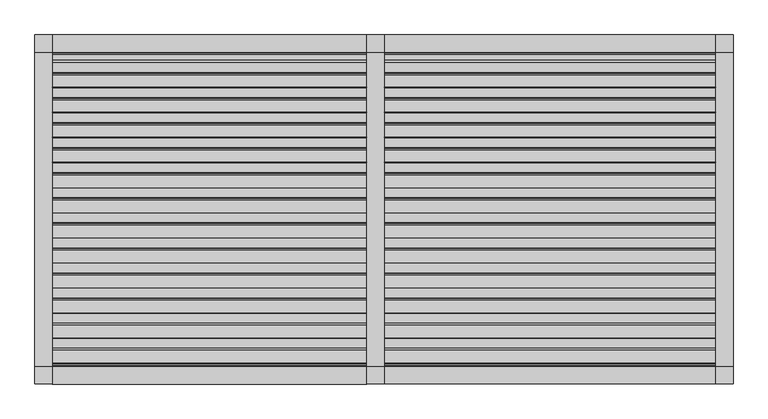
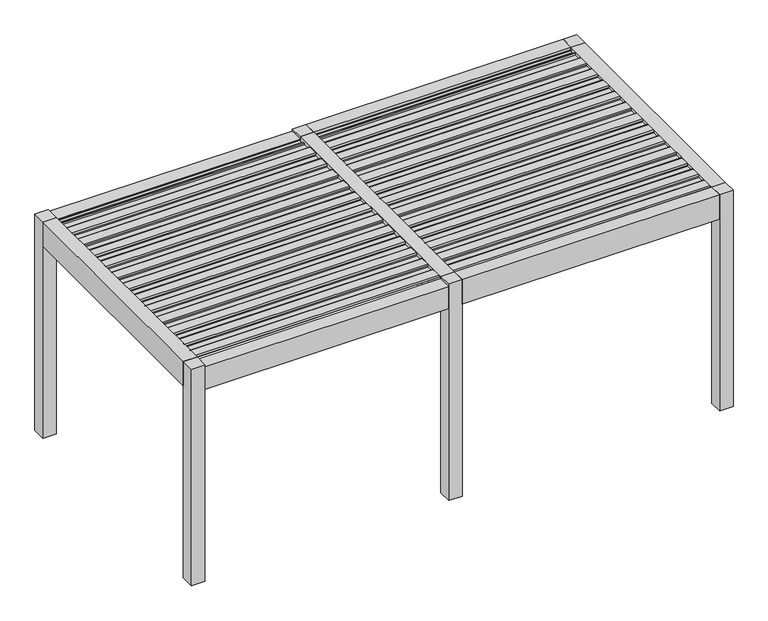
"""IFC4 building model written with IfcOpenShell, lengths in millimetres: proxy geometry, Renson_Amani_Patio_Cover : Renson_Amani_Patio_Cover."""

from ifc_helpers import new_model, si_unit, point, frame, frame_2d, origin, origin_with_axes, place, context, project, spatial, polyline, circle_curve, trimmed, segment, composite_curve, outline, extrude, source, transform, mapped, element, save


def generic_models_49bb953a(model_context):
    return source(origin(), model_context, "Body", "SweptSolid", [
        extrude(outline(composite_curve([segment(polyline([(-1073.7289238, 2483.35), (-1076.1490335, 2511.01198), (-1104.984284, 2512.3970364), (-1101.5469529, 2531.8911096), (-991.549838, 2526.6075693)]), True, "CONTINUOUS"), segment(trimmed(circle_curve(frame_2d((-992.26951, 2511.6248435)), 15.0), [point((-991.549838, 2526.6075693))], [point((-977.4973937, 2514.2295662))], False, "CARTESIAN"), True, "CONTINUOUS"), segment(polyline([(-977.4973937, 2514.2295662), (-974.1067023, 2495.0), (-886.3709263, 2495.0), (-883.3594689, 2512.0788237), (-868.0824984, 2511.3450182), (-865.6332517, 2483.35), (-1073.7289238, 2483.35)]), True, "CONTINUOUS")], self_intersect=False)), frame((1500.0, 0.0, 0.0), z_axis=(1.0, 0.0, 0.0), x_axis=(0.0, 1.0, 0.0)), (0.0, 0.0, 1.0), 2850.0),
        extrude(outline(composite_curve([segment(polyline([(-858.7132078, 2483.35), (-861.1333174, 2511.01198), (-889.9685679, 2512.3970364), (-886.5312368, 2531.8911096), (-776.534122, 2526.6075693)]), True, "CONTINUOUS"), segment(trimmed(circle_curve(frame_2d((-777.2537939, 2511.6248435)), 15.0), [point((-776.534122, 2526.6075693))], [point((-762.4816776, 2514.2295662))], False, "CARTESIAN"), True, "CONTINUOUS"), segment(polyline([(-762.4816776, 2514.2295662), (-759.0909863, 2495.0), (-671.3552102, 2495.0), (-668.3437528, 2512.0788237), (-653.0667824, 2511.3450182), (-650.6175356, 2483.35), (-858.7132078, 2483.35)]), True, "CONTINUOUS")], self_intersect=False)), frame((1500.0, 0.0, 0.0), z_axis=(1.0, 0.0, 0.0), x_axis=(0.0, 1.0, 0.0)), (0.0, 0.0, 1.0), 2850.0),
        extrude(outline(composite_curve([segment(polyline([(-643.6974917, 2483.35), (-646.1176014, 2511.01198), (-674.9528519, 2512.3970364), (-671.5155208, 2531.8911096), (-561.5184059, 2526.6075693)]), True, "CONTINUOUS"), segment(trimmed(circle_curve(frame_2d((-562.2380779, 2511.6248435)), 15.0), [point((-561.5184059, 2526.6075693))], [point((-547.4659616, 2514.2295662))], False, "CARTESIAN"), True, "CONTINUOUS"), segment(polyline([(-547.4659616, 2514.2295662), (-544.0752702, 2495.0), (-456.3394942, 2495.0), (-453.3280368, 2512.0788237), (-438.0510663, 2511.3450182), (-435.6018196, 2483.35), (-643.6974917, 2483.35)]), True, "CONTINUOUS")], self_intersect=False)), frame((1500.0, 0.0, 0.0), z_axis=(1.0, 0.0, 0.0), x_axis=(0.0, 1.0, 0.0)), (0.0, 0.0, 1.0), 2850.0),
        extrude(outline(composite_curve([segment(polyline([(-428.6817757, 2483.35), (-431.1018854, 2511.01198), (-459.9371358, 2512.3970364), (-456.4998047, 2531.8911096), (-346.5026899, 2526.6075693)]), True, "CONTINUOUS"), segment(trimmed(circle_curve(frame_2d((-347.2223618, 2511.6248435)), 15.0), [point((-346.5026899, 2526.6075693))], [point((-332.4502455, 2514.2295662))], False, "CARTESIAN"), True, "CONTINUOUS"), segment(polyline([(-332.4502455, 2514.2295662), (-329.0595542, 2495.0), (-241.3237782, 2495.0), (-238.3123207, 2512.0788237), (-223.0353503, 2511.3450182), (-220.5861035, 2483.35), (-428.6817757, 2483.35)]), True, "CONTINUOUS")], self_intersect=False)), frame((1500.0, 0.0, 0.0), z_axis=(1.0, 0.0, 0.0), x_axis=(0.0, 1.0, 0.0)), (0.0, 0.0, 1.0), 2850.0),
        extrude(outline(composite_curve([segment(polyline([(-213.6660597, 2483.35), (-216.0861693, 2511.01198), (-244.9214198, 2512.3970364), (-241.4840887, 2531.8911096), (-131.4869738, 2526.6075693)]), True, "CONTINUOUS"), segment(trimmed(circle_curve(frame_2d((-132.2066458, 2511.6248435)), 15.0), [point((-131.4869738, 2526.6075693))], [point((-117.4345295, 2514.2295662))], False, "CARTESIAN"), True, "CONTINUOUS"), segment(polyline([(-117.4345295, 2514.2295662), (-114.0438381, 2495.0), (-26.3080621, 2495.0), (-23.2966047, 2512.0788237), (-8.0196342, 2511.3450182), (-5.5703875, 2483.35), (-213.6660597, 2483.35)]), True, "CONTINUOUS")], self_intersect=False)), frame((1500.0, 0.0, 0.0), z_axis=(1.0, 0.0, 0.0), x_axis=(0.0, 1.0, 0.0)), (0.0, 0.0, 1.0), 2850.0),
        extrude(outline(composite_curve([segment(polyline([(1.3496564, 2483.35), (-1.0704533, 2511.01198), (-29.9057037, 2512.3970364), (-26.4683726, 2531.8911096), (83.5287422, 2526.6075693)]), True, "CONTINUOUS"), segment(trimmed(circle_curve(frame_2d((82.8090703, 2511.6248435)), 15.0), [point((83.5287422, 2526.6075693))], [point((97.5811866, 2514.2295662))], False, "CARTESIAN"), True, "CONTINUOUS"), segment(polyline([(97.5811866, 2514.2295662), (100.9718779, 2495.0), (188.7076539, 2495.0), (191.7191114, 2512.0788237), (206.9960818, 2511.3450182), (209.4453286, 2483.35), (1.3496564, 2483.35)]), True, "CONTINUOUS")], self_intersect=False)), frame((1500.0, 0.0, 0.0), z_axis=(1.0, 0.0, 0.0), x_axis=(0.0, 1.0, 0.0)), (0.0, 0.0, 1.0), 2850.0),
        extrude(outline(composite_curve([segment(polyline([(216.3653724, 2483.35), (213.9452628, 2511.01198), (185.1100123, 2512.3970364), (188.5473434, 2531.8911096), (298.5444582, 2526.6075693)]), True, "CONTINUOUS"), segment(trimmed(circle_curve(frame_2d((297.8247863, 2511.6248435)), 15.0), [point((298.5444582, 2526.6075693))], [point((312.5969026, 2514.2295662))], False, "CARTESIAN"), True, "CONTINUOUS"), segment(polyline([(312.5969026, 2514.2295662), (315.987594, 2495.0), (403.72337, 2495.0), (406.7348274, 2512.0788237), (422.0117979, 2511.3450182), (424.4610446, 2483.35), (216.3653724, 2483.35)]), True, "CONTINUOUS")], self_intersect=False)), frame((1500.0, 0.0, 0.0), z_axis=(1.0, 0.0, 0.0), x_axis=(0.0, 1.0, 0.0)), (0.0, 0.0, 1.0), 2850.0),
        extrude(outline(composite_curve([segment(polyline([(431.3810885, 2483.35), (428.9609788, 2511.01198), (400.1257284, 2512.3970364), (403.5630594, 2531.8911096), (513.5601743, 2526.6075693)]), True, "CONTINUOUS"), segment(trimmed(circle_curve(frame_2d((512.8405024, 2511.6248435)), 15.0), [point((513.5601743, 2526.6075693))], [point((527.6126187, 2514.2295662))], False, "CARTESIAN"), True, "CONTINUOUS"), segment(polyline([(527.6126187, 2514.2295662), (531.00331, 2495.0), (618.739086, 2495.0), (621.7505434, 2512.0788237), (637.0275139, 2511.3450182), (639.4767606, 2483.35), (431.3810885, 2483.35)]), True, "CONTINUOUS")], self_intersect=False)), frame((1500.0, 0.0, 0.0), z_axis=(1.0, 0.0, 0.0), x_axis=(0.0, 1.0, 0.0)), (0.0, 0.0, 1.0), 2850.0),
        extrude(outline(composite_curve([segment(polyline([(646.3968045, 2483.35), (643.9766949, 2511.01198), (615.1414444, 2512.3970364), (618.5787755, 2531.8911096), (728.5758903, 2526.6075693)]), True, "CONTINUOUS"), segment(trimmed(circle_curve(frame_2d((727.8562184, 2511.6248435)), 15.0), [point((728.5758903, 2526.6075693))], [point((742.6283347, 2514.2295662))], False, "CARTESIAN"), True, "CONTINUOUS"), segment(polyline([(742.6283347, 2514.2295662), (746.019026, 2495.0), (833.7548021, 2495.0), (836.7662595, 2512.0788237), (852.04323, 2511.3450182), (854.4924767, 2483.35), (646.3968045, 2483.35)]), True, "CONTINUOUS")], self_intersect=False)), frame((1500.0, 0.0, 0.0), z_axis=(1.0, 0.0, 0.0), x_axis=(0.0, 1.0, 0.0)), (0.0, 0.0, 1.0), 2850.0),
        extrude(outline(composite_curve([segment(polyline([(861.4125206, 2483.35), (858.9924109, 2511.01198), (830.1571605, 2512.3970364), (833.5944915, 2531.8911096), (943.5916064, 2526.6075693)]), True, "CONTINUOUS"), segment(trimmed(circle_curve(frame_2d((942.8719345, 2511.6248435)), 15.0), [point((943.5916064, 2526.6075693))], [point((957.6440508, 2514.2295662))], False, "CARTESIAN"), True, "CONTINUOUS"), segment(polyline([(957.6440508, 2514.2295662), (961.0347421, 2495.0), (1048.7705181, 2495.0), (1051.7819755, 2512.0788237), (1067.058946, 2511.3450182), (1069.5081927, 2483.35), (861.4125206, 2483.35)]), True, "CONTINUOUS")], self_intersect=False)), frame((1500.0, 0.0, 0.0), z_axis=(1.0, 0.0, 0.0), x_axis=(0.0, 1.0, 0.0)), (0.0, 0.0, 1.0), 2850.0),
        extrude(outline(composite_curve([segment(polyline([(-1288.7446399, 2483.35), (-1291.1647495, 2511.01198), (-1320.0, 2512.3970364), (-1316.5626689, 2531.8911096), (-1206.5655541, 2526.6075693)]), True, "CONTINUOUS"), segment(trimmed(circle_curve(frame_2d((-1207.285226, 2511.6248435)), 15.0), [point((-1206.5655541, 2526.6075693))], [point((-1192.5131097, 2514.2295662))], False, "CARTESIAN"), True, "CONTINUOUS"), segment(polyline([(-1192.5131097, 2514.2295662), (-1189.1224184, 2495.0), (-1101.3866423, 2495.0), (-1098.3751849, 2512.0788237), (-1083.0982144, 2511.3450182), (-1080.6489677, 2483.35), (-1288.7446399, 2483.35)]), True, "CONTINUOUS")], self_intersect=False)), frame((1500.0, 0.0, 0.0), z_axis=(1.0, 0.0, 0.0), x_axis=(0.0, 1.0, 0.0)), (0.0, 0.0, 1.0), 2850.0),
        extrude(outline(composite_curve([segment(polyline([(1076.4282366, 2483.35), (1074.008127, 2511.01198), (1045.1728765, 2512.3970364), (1048.6102076, 2531.8911096), (1158.6073224, 2526.6075693)]), True, "CONTINUOUS"), segment(trimmed(circle_curve(frame_2d((1157.8876505, 2511.6248435)), 15.0), [point((1158.6073224, 2526.6075693))], [point((1172.6597668, 2514.2295662))], False, "CARTESIAN"), True, "CONTINUOUS"), segment(polyline([(1172.6597668, 2514.2295662), (1176.0504581, 2495.0), (1263.7862342, 2495.0), (1266.7976916, 2512.0788237), (1282.0746621, 2511.3450182), (1284.5239088, 2483.35), (1076.4282366, 2483.35)]), True, "CONTINUOUS")], self_intersect=False)), frame((1500.0, 0.0, 0.0), z_axis=(1.0, 0.0, 0.0), x_axis=(0.0, 1.0, 0.0)), (0.0, 0.0, 1.0), 2850.0),
        extrude(outline(composite_curve([segment(polyline([(-1073.7289238, 2483.35), (-1076.1490335, 2511.01198), (-1104.984284, 2512.3970364), (-1101.5469529, 2531.8911096), (-991.549838, 2526.6075693)]), True, "CONTINUOUS"), segment(trimmed(circle_curve(frame_2d((-992.26951, 2511.6248435)), 15.0), [point((-991.549838, 2526.6075693))], [point((-977.4973937, 2514.2295662))], False, "CARTESIAN"), True, "CONTINUOUS"), segment(polyline([(-977.4973937, 2514.2295662), (-974.1067023, 2495.0), (-886.3709263, 2495.0), (-883.3594689, 2512.0788237), (-868.0824984, 2511.3450182), (-865.6332517, 2483.35), (-1073.7289238, 2483.35)]), True, "CONTINUOUS")], self_intersect=False)), frame((-1350.0, 0.0, 0.0), z_axis=(1.0, 0.0, 0.0), x_axis=(0.0, 1.0, 0.0)), (0.0, 0.0, 1.0), 2700.0),
        extrude(outline(composite_curve([segment(polyline([(-858.7132078, 2483.35), (-861.1333174, 2511.01198), (-889.9685679, 2512.3970364), (-886.5312368, 2531.8911096), (-776.534122, 2526.6075693)]), True, "CONTINUOUS"), segment(trimmed(circle_curve(frame_2d((-777.2537939, 2511.6248435)), 15.0), [point((-776.534122, 2526.6075693))], [point((-762.4816776, 2514.2295662))], False, "CARTESIAN"), True, "CONTINUOUS"), segment(polyline([(-762.4816776, 2514.2295662), (-759.0909863, 2495.0), (-671.3552102, 2495.0), (-668.3437528, 2512.0788237), (-653.0667824, 2511.3450182), (-650.6175356, 2483.35), (-858.7132078, 2483.35)]), True, "CONTINUOUS")], self_intersect=False)), frame((-1350.0, 0.0, 0.0), z_axis=(1.0, 0.0, 0.0), x_axis=(0.0, 1.0, 0.0)), (0.0, 0.0, 1.0), 2700.0),
        extrude(outline(composite_curve([segment(polyline([(-643.6974917, 2483.35), (-646.1176014, 2511.01198), (-674.9528519, 2512.3970364), (-671.5155208, 2531.8911096), (-561.5184059, 2526.6075693)]), True, "CONTINUOUS"), segment(trimmed(circle_curve(frame_2d((-562.2380779, 2511.6248435)), 15.0), [point((-561.5184059, 2526.6075693))], [point((-547.4659616, 2514.2295662))], False, "CARTESIAN"), True, "CONTINUOUS"), segment(polyline([(-547.4659616, 2514.2295662), (-544.0752702, 2495.0), (-456.3394942, 2495.0), (-453.3280368, 2512.0788237), (-438.0510663, 2511.3450182), (-435.6018196, 2483.35), (-643.6974917, 2483.35)]), True, "CONTINUOUS")], self_intersect=False)), frame((-1350.0, 0.0, 0.0), z_axis=(1.0, 0.0, 0.0), x_axis=(0.0, 1.0, 0.0)), (0.0, 0.0, 1.0), 2700.0),
        extrude(outline(composite_curve([segment(polyline([(-428.6817757, 2483.35), (-431.1018854, 2511.01198), (-459.9371358, 2512.3970364), (-456.4998047, 2531.8911096), (-346.5026899, 2526.6075693)]), True, "CONTINUOUS"), segment(trimmed(circle_curve(frame_2d((-347.2223618, 2511.6248435)), 15.0), [point((-346.5026899, 2526.6075693))], [point((-332.4502455, 2514.2295662))], False, "CARTESIAN"), True, "CONTINUOUS"), segment(polyline([(-332.4502455, 2514.2295662), (-329.0595542, 2495.0), (-241.3237782, 2495.0), (-238.3123207, 2512.0788237), (-223.0353503, 2511.3450182), (-220.5861035, 2483.35), (-428.6817757, 2483.35)]), True, "CONTINUOUS")], self_intersect=False)), frame((-1350.0, 0.0, 0.0), z_axis=(1.0, 0.0, 0.0), x_axis=(0.0, 1.0, 0.0)), (0.0, 0.0, 1.0), 2700.0),
        extrude(outline(composite_curve([segment(polyline([(-213.6660597, 2483.35), (-216.0861693, 2511.01198), (-244.9214198, 2512.3970364), (-241.4840887, 2531.8911096), (-131.4869738, 2526.6075693)]), True, "CONTINUOUS"), segment(trimmed(circle_curve(frame_2d((-132.2066458, 2511.6248435)), 15.0), [point((-131.4869738, 2526.6075693))], [point((-117.4345295, 2514.2295662))], False, "CARTESIAN"), True, "CONTINUOUS"), segment(polyline([(-117.4345295, 2514.2295662), (-114.0438381, 2495.0), (-26.3080621, 2495.0), (-23.2966047, 2512.0788237), (-8.0196342, 2511.3450182), (-5.5703875, 2483.35), (-213.6660597, 2483.35)]), True, "CONTINUOUS")], self_intersect=False)), frame((-1350.0, 0.0, 0.0), z_axis=(1.0, 0.0, 0.0), x_axis=(0.0, 1.0, 0.0)), (0.0, 0.0, 1.0), 2700.0),
        extrude(outline(composite_curve([segment(polyline([(1.3496564, 2483.35), (-1.0704533, 2511.01198), (-29.9057037, 2512.3970364), (-26.4683726, 2531.8911096), (83.5287422, 2526.6075693)]), True, "CONTINUOUS"), segment(trimmed(circle_curve(frame_2d((82.8090703, 2511.6248435)), 15.0), [point((83.5287422, 2526.6075693))], [point((97.5811866, 2514.2295662))], False, "CARTESIAN"), True, "CONTINUOUS"), segment(polyline([(97.5811866, 2514.2295662), (100.9718779, 2495.0), (188.7076539, 2495.0), (191.7191114, 2512.0788237), (206.9960818, 2511.3450182), (209.4453286, 2483.35), (1.3496564, 2483.35)]), True, "CONTINUOUS")], self_intersect=False)), frame((-1350.0, 0.0, 0.0), z_axis=(1.0, 0.0, 0.0), x_axis=(0.0, 1.0, 0.0)), (0.0, 0.0, 1.0), 2700.0),
        extrude(outline(composite_curve([segment(polyline([(216.3653724, 2483.35), (213.9452628, 2511.01198), (185.1100123, 2512.3970364), (188.5473434, 2531.8911096), (298.5444582, 2526.6075693)]), True, "CONTINUOUS"), segment(trimmed(circle_curve(frame_2d((297.8247863, 2511.6248435)), 15.0), [point((298.5444582, 2526.6075693))], [point((312.5969026, 2514.2295662))], False, "CARTESIAN"), True, "CONTINUOUS"), segment(polyline([(312.5969026, 2514.2295662), (315.987594, 2495.0), (403.72337, 2495.0), (406.7348274, 2512.0788237), (422.0117979, 2511.3450182), (424.4610446, 2483.35), (216.3653724, 2483.35)]), True, "CONTINUOUS")], self_intersect=False)), frame((-1350.0, 0.0, 0.0), z_axis=(1.0, 0.0, 0.0), x_axis=(0.0, 1.0, 0.0)), (0.0, 0.0, 1.0), 2700.0),
        extrude(outline(composite_curve([segment(polyline([(431.3810885, 2483.35), (428.9609788, 2511.01198), (400.1257284, 2512.3970364), (403.5630594, 2531.8911096), (513.5601743, 2526.6075693)]), True, "CONTINUOUS"), segment(trimmed(circle_curve(frame_2d((512.8405024, 2511.6248435)), 15.0), [point((513.5601743, 2526.6075693))], [point((527.6126187, 2514.2295662))], False, "CARTESIAN"), True, "CONTINUOUS"), segment(polyline([(527.6126187, 2514.2295662), (531.00331, 2495.0), (618.739086, 2495.0), (621.7505434, 2512.0788237), (637.0275139, 2511.3450182), (639.4767606, 2483.35), (431.3810885, 2483.35)]), True, "CONTINUOUS")], self_intersect=False)), frame((-1350.0, 0.0, 0.0), z_axis=(1.0, 0.0, 0.0), x_axis=(0.0, 1.0, 0.0)), (0.0, 0.0, 1.0), 2700.0),
        extrude(outline(composite_curve([segment(polyline([(646.3968045, 2483.35), (643.9766949, 2511.01198), (615.1414444, 2512.3970364), (618.5787755, 2531.8911096), (728.5758903, 2526.6075693)]), True, "CONTINUOUS"), segment(trimmed(circle_curve(frame_2d((727.8562184, 2511.6248435)), 15.0), [point((728.5758903, 2526.6075693))], [point((742.6283347, 2514.2295662))], False, "CARTESIAN"), True, "CONTINUOUS"), segment(polyline([(742.6283347, 2514.2295662), (746.019026, 2495.0), (833.7548021, 2495.0), (836.7662595, 2512.0788237), (852.04323, 2511.3450182), (854.4924767, 2483.35), (646.3968045, 2483.35)]), True, "CONTINUOUS")], self_intersect=False)), frame((-1350.0, 0.0, 0.0), z_axis=(1.0, 0.0, 0.0), x_axis=(0.0, 1.0, 0.0)), (0.0, 0.0, 1.0), 2700.0),
        extrude(outline(composite_curve([segment(polyline([(861.4125206, 2483.35), (858.9924109, 2511.01198), (830.1571605, 2512.3970364), (833.5944915, 2531.8911096), (943.5916064, 2526.6075693)]), True, "CONTINUOUS"), segment(trimmed(circle_curve(frame_2d((942.8719345, 2511.6248435)), 15.0), [point((943.5916064, 2526.6075693))], [point((957.6440508, 2514.2295662))], False, "CARTESIAN"), True, "CONTINUOUS"), segment(polyline([(957.6440508, 2514.2295662), (961.0347421, 2495.0), (1048.7705181, 2495.0), (1051.7819755, 2512.0788237), (1067.058946, 2511.3450182), (1069.5081927, 2483.35), (861.4125206, 2483.35)]), True, "CONTINUOUS")], self_intersect=False)), frame((-1350.0, 0.0, 0.0), z_axis=(1.0, 0.0, 0.0), x_axis=(0.0, 1.0, 0.0)), (0.0, 0.0, 1.0), 2700.0),
        extrude(outline(composite_curve([segment(polyline([(-1288.7446399, 2483.35), (-1291.1647495, 2511.01198), (-1320.0, 2512.3970364), (-1316.5626689, 2531.8911096), (-1206.5655541, 2526.6075693)]), True, "CONTINUOUS"), segment(trimmed(circle_curve(frame_2d((-1207.285226, 2511.6248435)), 15.0), [point((-1206.5655541, 2526.6075693))], [point((-1192.5131097, 2514.2295662))], False, "CARTESIAN"), True, "CONTINUOUS"), segment(polyline([(-1192.5131097, 2514.2295662), (-1189.1224184, 2495.0), (-1101.3866423, 2495.0), (-1098.3751849, 2512.0788237), (-1083.0982144, 2511.3450182), (-1080.6489677, 2483.35), (-1288.7446399, 2483.35)]), True, "CONTINUOUS")], self_intersect=False)), frame((-1350.0, 0.0, 0.0), z_axis=(1.0, 0.0, 0.0), x_axis=(0.0, 1.0, 0.0)), (0.0, 0.0, 1.0), 2700.0),
        extrude(outline(composite_curve([segment(polyline([(1076.4282366, 2483.35), (1074.008127, 2511.01198), (1045.1728765, 2512.3970364), (1048.6102076, 2531.8911096), (1158.6073224, 2526.6075693)]), True, "CONTINUOUS"), segment(trimmed(circle_curve(frame_2d((1157.8876505, 2511.6248435)), 15.0), [point((1158.6073224, 2526.6075693))], [point((1172.6597668, 2514.2295662))], False, "CARTESIAN"), True, "CONTINUOUS"), segment(polyline([(1172.6597668, 2514.2295662), (1176.0504581, 2495.0), (1263.7862342, 2495.0), (1266.7976916, 2512.0788237), (1282.0746621, 2511.3450182), (1284.5239088, 2483.35), (1076.4282366, 2483.35)]), True, "CONTINUOUS")], self_intersect=False)), frame((-1350.0, 0.0, 0.0), z_axis=(1.0, 0.0, 0.0), x_axis=(0.0, 1.0, 0.0)), (0.0, 0.0, 1.0), 2700.0),
        extrude(outline(polyline([(4500.0, 1350.0), (4350.0, 1350.0), (4350.0, 1500.0), (4500.0, 1500.0), (4500.0, 1350.0)])), frame((0.0, 0.0, 2250.0), z_axis=(0.0, 0.0, 1.0), x_axis=(1.0, 0.0, 0.0)), (0.0, 0.0, 1.0), 285.0),
        extrude(outline(polyline([(1500.0, 1500.0), (1500.0, 1350.0), (1350.0, 1350.0), (1350.0, 1500.0), (1500.0, 1500.0)])), frame((0.0, 0.0, 2250.0), z_axis=(0.0, 0.0, 1.0), x_axis=(1.0, 0.0, 0.0)), (0.0, 0.0, 1.0), 285.0),
        extrude(outline(polyline([(4500.0, -1350.0), (4500.0, -1500.0), (4350.0, -1500.0), (4350.0, -1350.0), (4500.0, -1350.0)])), origin_with_axes(), (0.0, 0.0, 1.0), 2535.0),
        extrude(outline(polyline([(1500.0, -1350.0), (1500.0, -1500.0), (1350.0, -1500.0), (1350.0, -1350.0), (1500.0, -1350.0)])), origin_with_axes(), (0.0, 0.0, 1.0), 2535.0),
        extrude(outline(polyline([(-1350.0, 1350.0), (-1500.0, 1350.0), (-1500.0, 1500.0), (-1350.0, 1500.0), (-1350.0, 1350.0)])), origin_with_axes(), (0.0, 0.0, 1.0), 2535.0),
        extrude(outline(polyline([(-1350.0, -1350.0), (-1350.0, -1500.0), (-1500.0, -1500.0), (-1500.0, -1350.0), (-1350.0, -1350.0)])), origin_with_axes(), (0.0, 0.0, 1.0), 2535.0),
        extrude(outline(polyline([(1350.0, 2466.6559373), (1290.0, 2466.6559373), (1286.2487113, 2480.6555802), (1329.5940945, 2480.6555802), (1345.0, 2496.400763), (1345.0, 2504.2449277), (1350.0, 2504.6823598), (1350.0, 2466.6559373)])), frame((1500.0, 0.0, 0.0), z_axis=(1.0, 0.0, 0.0), x_axis=(0.0, 1.0, 0.0)), (0.0, 0.0, 1.0), 2850.0),
        extrude(outline(polyline([(4350.0, 1500.0), (4350.0, 1350.0), (1500.0, 1350.0), (1500.0, 1500.0), (4350.0, 1500.0)])), frame((0.0, 0.0, 2250.0), z_axis=(0.0, 0.0, 1.0), x_axis=(1.0, 0.0, 0.0)), (0.0, 0.0, 1.0), 285.0),
        extrude(outline(polyline([(-1350.0, 2250.0), (-1500.0, 2250.0), (-1500.0, 2535.0), (-1350.0, 2535.0), (-1350.0, 2504.6823598), (-1345.0, 2504.2449277), (-1345.0, 2496.400763), (-1329.2544156, 2480.6555802), (-1319.9090324, 2480.6555802), (-1323.6603211, 2466.6559373), (-1350.0, 2466.6559373), (-1350.0, 2250.0)])), frame((1500.0, 0.0, 0.0), z_axis=(1.0, 0.0, 0.0), x_axis=(0.0, 1.0, 0.0)), (0.0, 0.0, 1.0), 2850.0),
        extrude(outline(polyline([(2535.0, 1350.0), (2322.0, 1350.0), (2322.0, 1280.0000001), (2250.0, 1280.0000001), (2250.0, 1569.9999999), (2322.0, 1569.9999999), (2322.0, 1500.0), (2535.0, 1500.0), (2535.0, 1350.0)])), frame((0.0, -1350.0, 0.0), z_axis=(0.0, 1.0, 0.0), x_axis=(0.0, 0.0, 1.0)), (0.0, 0.0, 1.0), 2700.0),
        extrude(outline(polyline([(2535.0, 4350.0), (2322.0, 4350.0), (2322.0, 4280.0000001), (2250.0, 4280.0000001), (2250.0, 4500.0), (2535.0, 4500.0), (2535.0, 4350.0)])), frame((0.0, -1350.0, 0.0), z_axis=(0.0, 1.0, 0.0), x_axis=(0.0, 0.0, 1.0)), (0.0, 0.0, 1.0), 2700.0),
        extrude(outline(polyline([(1350.0, 2466.6559373), (1290.0, 2466.6559373), (1286.2487113, 2480.6555802), (1329.5940945, 2480.6555802), (1345.0, 2496.400763), (1345.0, 2504.2449277), (1350.0, 2504.6823598), (1350.0, 2466.6559373)])), frame((-1350.0, 0.0, 0.0), z_axis=(1.0, 0.0, 0.0), x_axis=(0.0, 1.0, 0.0)), (0.0, 0.0, 1.0), 2700.0),
        extrude(outline(polyline([(-1350.0, 2510.0), (-1350.0, 2479.6823598), (-1345.0, 2479.2449277), (-1345.0, 2471.400763), (-1329.2544156, 2455.6555802), (-1319.9090324, 2455.6555802), (-1323.6603211, 2441.6559373), (-1350.0, 2441.6559373), (-1350.0, 2250.0), (-1500.0, 2250.0), (-1500.0, 2510.0), (-1350.0, 2510.0)])), frame((-1350.0, 0.0, 0.0), z_axis=(1.0, 0.0, 0.0), x_axis=(0.0, 1.0, 0.0)), (0.0, 0.0, 1.0), 2700.0),
        extrude(outline(polyline([(1350.0, 1500.0), (1350.0, 1350.0), (-1350.0, 1350.0), (-1350.0, 1500.0), (1350.0, 1500.0)])), frame((0.0, 0.0, 2250.0), z_axis=(0.0, 0.0, 1.0), x_axis=(1.0, 0.0, 0.0)), (0.0, 0.0, 1.0), 260.0),
        extrude(outline(polyline([(2535.0, -1350.0), (2535.0, -1500.0), (2250.0, -1500.0), (2250.0, -1280.0000001), (2322.0, -1280.0000001), (2322.0, -1350.0), (2535.0, -1350.0)])), frame((0.0, -1350.0, 0.0), z_axis=(0.0, 1.0, 0.0), x_axis=(0.0, 0.0, 1.0)), (0.0, 0.0, 1.0), 2700.0),
        extrude(outline(polyline([(2250.0, 1500.0), (2535.0, 1500.0), (2535.0, 1350.0), (2322.0, 1350.0), (2322.0, 1280.0000001), (2250.0, 1280.0000001), (2250.0, 1500.0)])), frame((0.0, -1350.0, 0.0), z_axis=(0.0, 1.0, 0.0), x_axis=(0.0, 0.0, 1.0)), (0.0, 0.0, 1.0), 2700.0),
    ])


if __name__ == "__main__":
    model = new_model("IFC4")
    model_context = context("Model", 3, world=origin())
    ifc_project = project(units=[si_unit("LENGTHUNIT", "METRE", prefix="MILLI")], contexts=[model_context])
    site = spatial("IfcSite", under=ifc_project)
    building = spatial("IfcBuilding", under=site)
    placement = place(None, origin())
    generic_models_shape = generic_models_49bb953a(model_context)
    element("IfcBuildingElementProxy", 1, Name="Renson_Amani_Patio_Cover : Renson_Amani_Patio_Cover", ObjectType="Renson_Amani_Patio_Cover : Renson_Amani_Patio_Cover", at=placement, inside=building, context=model_context, shape_type="MappedRepresentation", body=[
        mapped(generic_models_shape, transform((0.0, 0.0, 0.0), x_axis=(1.0, 0.0, 0.0), y_axis=(0.0, 1.0, 0.0), z_axis=(0.0, 0.0, 1.0))),
    ])
    save(model, "model.ifc")
